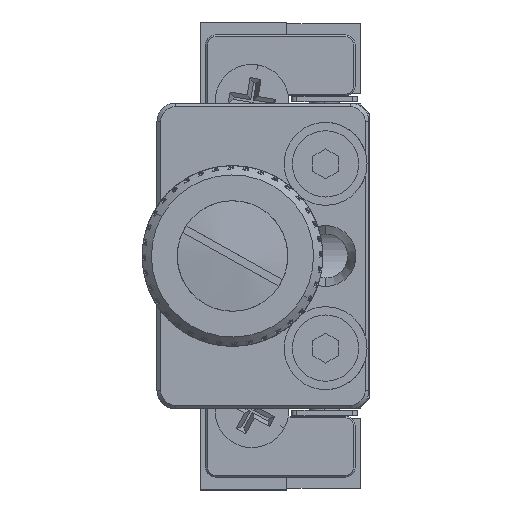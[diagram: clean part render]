
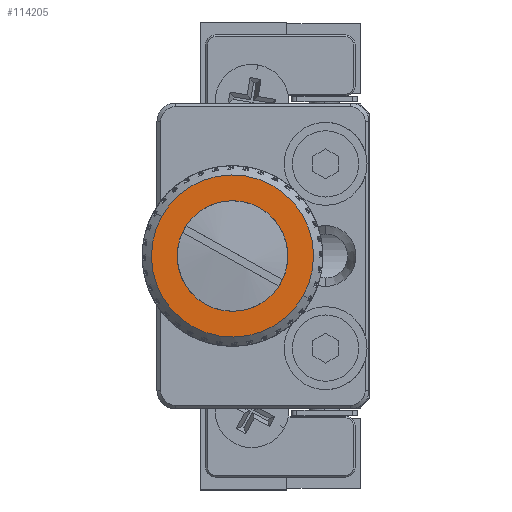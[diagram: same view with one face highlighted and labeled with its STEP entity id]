
A CAD part, left-side view. The second image highlights one B-rep face of the part: STEP entity #114205.
In plain terms, the highlighted planar face has unit normal (-1, 0, 0) as drawn and (1, 0, 0) by its records, which use the part's own axes.
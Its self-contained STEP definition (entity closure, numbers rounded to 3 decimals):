
#12420 = AXIS2_PLACEMENT_3D ( 'NONE', #25534, #25593, #25603 ) ;
#20385 = CIRCLE ( 'NONE', #106217, 4.4 ) ;
#20393 = CIRCLE ( 'NONE', #106274, 3. ) ;
#25534 = CARTESIAN_POINT ( 'NONE',  ( 37.5, 4.9, 0. ) ) ;
#25593 = DIRECTION ( 'NONE',  ( -1., 0., 0. ) ) ;
#25599 = PLANE ( 'NONE',  #12420 ) ;
#25603 = DIRECTION ( 'NONE',  ( 0., 0., 1. ) ) ;
#48718 = CARTESIAN_POINT ( 'NONE',  ( 37.5, 0., -4.4 ) ) ;
#49026 = CARTESIAN_POINT ( 'NONE',  ( 37.5, 0., 3. ) ) ;
#49223 = CARTESIAN_POINT ( 'NONE',  ( 37.5, 0., -3. ) ) ;
#49302 = CARTESIAN_POINT ( 'NONE',  ( 37.5, 0., 4.4 ) ) ;
#78908 = EDGE_CURVE ( 'NONE', #123427, #123476, #20385, .T. ) ;
#78970 = EDGE_CURVE ( 'NONE', #123302, #123513, #20393, .T. ) ;
#87326 = AXIS2_PLACEMENT_3D ( 'NONE', #142646, #142683, #142587 ) ;
#88426 = AXIS2_PLACEMENT_3D ( 'NONE', #173419, #173464, #173393 ) ;
#104892 = EDGE_CURVE ( 'NONE', #123513, #123302, #145216, .T. ) ;
#105839 = EDGE_CURVE ( 'NONE', #123476, #123427, #145546, .T. ) ;
#106217 = AXIS2_PLACEMENT_3D ( 'NONE', #118669, #117386, #117410 ) ;
#106274 = AXIS2_PLACEMENT_3D ( 'NONE', #117481, #117470, #117474 ) ;
#114205 = ADVANCED_FACE ( 'NONE', ( #145105, #145246 ), #25599, .F. ) ;
#117386 = DIRECTION ( 'NONE',  ( 1., 0., 0. ) ) ;
#117410 = DIRECTION ( 'NONE',  ( 0., 0., 1. ) ) ;
#117470 = DIRECTION ( 'NONE',  ( -1., 0., 0. ) ) ;
#117474 = DIRECTION ( 'NONE',  ( 0., 0., 1. ) ) ;
#117481 = CARTESIAN_POINT ( 'NONE',  ( 37.5, 0., 0. ) ) ;
#118669 = CARTESIAN_POINT ( 'NONE',  ( 37.5, 0., 0. ) ) ;
#123302 = VERTEX_POINT ( 'NONE', #49026 ) ;
#123427 = VERTEX_POINT ( 'NONE', #48718 ) ;
#123476 = VERTEX_POINT ( 'NONE', #49302 ) ;
#123513 = VERTEX_POINT ( 'NONE', #49223 ) ;
#136001 = EDGE_LOOP ( 'NONE', ( #149762, #149728 ) ) ;
#136070 = EDGE_LOOP ( 'NONE', ( #149752, #149607 ) ) ;
#142587 = DIRECTION ( 'NONE',  ( 0., 0., 1. ) ) ;
#142646 = CARTESIAN_POINT ( 'NONE',  ( 37.5, 0., 0. ) ) ;
#142683 = DIRECTION ( 'NONE',  ( -1., 0., 0. ) ) ;
#145105 = FACE_OUTER_BOUND ( 'NONE', #136001, .T. ) ;
#145216 = CIRCLE ( 'NONE', #87326, 3. ) ;
#145246 = FACE_BOUND ( 'NONE', #136070, .T. ) ;
#145546 = CIRCLE ( 'NONE', #88426, 4.4 ) ;
#149607 = ORIENTED_EDGE ( 'NONE', *, *, #104892, .T. ) ;
#149728 = ORIENTED_EDGE ( 'NONE', *, *, #78908, .T. ) ;
#149752 = ORIENTED_EDGE ( 'NONE', *, *, #78970, .T. ) ;
#149762 = ORIENTED_EDGE ( 'NONE', *, *, #105839, .T. ) ;
#173393 = DIRECTION ( 'NONE',  ( 0., 0., 1. ) ) ;
#173419 = CARTESIAN_POINT ( 'NONE',  ( 37.5, 0., 0. ) ) ;
#173464 = DIRECTION ( 'NONE',  ( 1., 0., 0. ) ) ;
